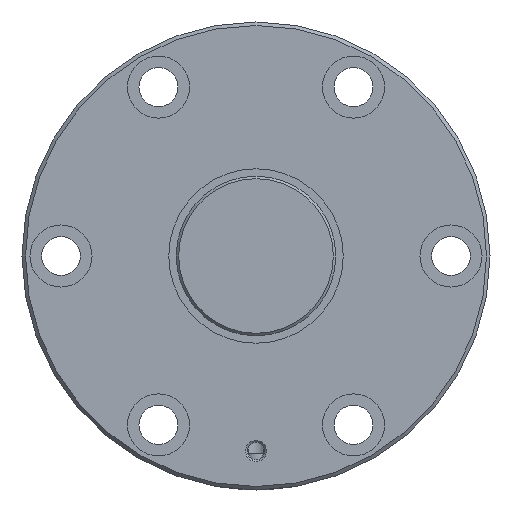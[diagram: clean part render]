
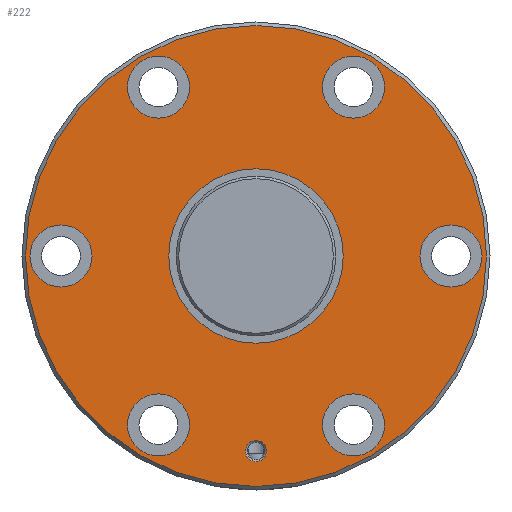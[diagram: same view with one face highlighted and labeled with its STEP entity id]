
A CAD part, left-side view. The second image highlights one B-rep face of the part: STEP entity #222.
In plain terms, the highlighted planar face has unit normal (-1, 0, 0).
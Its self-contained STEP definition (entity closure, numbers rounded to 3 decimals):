
#222 = ADVANCED_FACE( '', ( #386, #387, #388, #389, #390, #391, #392, #393, #394 ), #395, .T. );
#386 = FACE_BOUND( '', #613, .T. );
#387 = FACE_BOUND( '', #614, .T. );
#388 = FACE_BOUND( '', #615, .T. );
#389 = FACE_BOUND( '', #616, .T. );
#390 = FACE_BOUND( '', #617, .T. );
#391 = FACE_BOUND( '', #618, .T. );
#392 = FACE_BOUND( '', #619, .T. );
#393 = FACE_BOUND( '', #620, .T. );
#394 = FACE_OUTER_BOUND( '', #621, .T. );
#395 = PLANE( '', #622 );
#613 = EDGE_LOOP( '', ( #1086 ) );
#614 = EDGE_LOOP( '', ( #1087 ) );
#615 = EDGE_LOOP( '', ( #1088 ) );
#616 = EDGE_LOOP( '', ( #1089 ) );
#617 = EDGE_LOOP( '', ( #1090 ) );
#618 = EDGE_LOOP( '', ( #1091 ) );
#619 = EDGE_LOOP( '', ( #1092 ) );
#620 = EDGE_LOOP( '', ( #1093 ) );
#621 = EDGE_LOOP( '', ( #1094 ) );
#622 = AXIS2_PLACEMENT_3D( '', #1095, #1096, #1097 );
#1086 = ORIENTED_EDGE( '', *, *, #1366, .T. );
#1087 = ORIENTED_EDGE( '', *, *, #1367, .T. );
#1088 = ORIENTED_EDGE( '', *, *, #1273, .T. );
#1089 = ORIENTED_EDGE( '', *, *, #1365, .T. );
#1090 = ORIENTED_EDGE( '', *, *, #1368, .T. );
#1091 = ORIENTED_EDGE( '', *, *, #1369, .T. );
#1092 = ORIENTED_EDGE( '', *, *, #1370, .T. );
#1093 = ORIENTED_EDGE( '', *, *, #1371, .T. );
#1094 = ORIENTED_EDGE( '', *, *, #1372, .F. );
#1095 = CARTESIAN_POINT( '', ( 0., 65., 0. ) );
#1096 = DIRECTION( '', ( -1., 0., 0. ) );
#1097 = DIRECTION( '', ( 0., 0., 1. ) );
#1273 = EDGE_CURVE( '', #1443, #1443, #1444, .T. );
#1365 = EDGE_CURVE( '', #1601, #1601, #1602, .T. );
#1366 = EDGE_CURVE( '', #1603, #1603, #1604, .T. );
#1367 = EDGE_CURVE( '', #1605, #1605, #1606, .F. );
#1368 = EDGE_CURVE( '', #1607, #1607, #1608, .T. );
#1369 = EDGE_CURVE( '', #1609, #1609, #1610, .T. );
#1370 = EDGE_CURVE( '', #1611, #1611, #1612, .T. );
#1371 = EDGE_CURVE( '', #1613, #1613, #1614, .T. );
#1372 = EDGE_CURVE( '', #1615, #1615, #1616, .T. );
#1443 = VERTEX_POINT( '', #1830 );
#1444 = CIRCLE( '', #1831, 3. );
#1601 = VERTEX_POINT( '', #2524 );
#1602 = CIRCLE( '', #2525, 8.75 );
#1603 = VERTEX_POINT( '', #2526 );
#1604 = CIRCLE( '', #2527, 24.6 );
#1605 = VERTEX_POINT( '', #2528 );
#1606 = CIRCLE( '', #2529, 8.75 );
#1607 = VERTEX_POINT( '', #2530 );
#1608 = CIRCLE( '', #2531, 8.75 );
#1609 = VERTEX_POINT( '', #2532 );
#1610 = CIRCLE( '', #2533, 8.75 );
#1611 = VERTEX_POINT( '', #2534 );
#1612 = CIRCLE( '', #2535, 8.75 );
#1613 = VERTEX_POINT( '', #2536 );
#1614 = CIRCLE( '', #2537, 8.75 );
#1615 = VERTEX_POINT( '', #2538 );
#1616 = CIRCLE( '', #2539, 65. );
#1830 = CARTESIAN_POINT( '', ( 0., 0., -58. ) );
#1831 = AXIS2_PLACEMENT_3D( '', #2701, #2702, #2703 );
#2524 = CARTESIAN_POINT( '', ( 0., 27.5, 38.881 ) );
#2525 = AXIS2_PLACEMENT_3D( '', #2857, #2858, #2859 );
#2526 = CARTESIAN_POINT( '', ( 0., 0., -24.6 ) );
#2527 = AXIS2_PLACEMENT_3D( '', #2860, #2861, #2862 );
#2528 = CARTESIAN_POINT( '', ( 0., 55., 8.75 ) );
#2529 = AXIS2_PLACEMENT_3D( '', #2863, #2864, #2865 );
#2530 = CARTESIAN_POINT( '', ( 0., -27.5, -56.381 ) );
#2531 = AXIS2_PLACEMENT_3D( '', #2866, #2867, #2868 );
#2532 = CARTESIAN_POINT( '', ( 0., -27.5, 38.881 ) );
#2533 = AXIS2_PLACEMENT_3D( '', #2869, #2870, #2871 );
#2534 = CARTESIAN_POINT( '', ( 0., 27.5, -56.381 ) );
#2535 = AXIS2_PLACEMENT_3D( '', #2872, #2873, #2874 );
#2536 = CARTESIAN_POINT( '', ( 0., -55., -8.75 ) );
#2537 = AXIS2_PLACEMENT_3D( '', #2875, #2876, #2877 );
#2538 = CARTESIAN_POINT( '', ( 0., 0., -65. ) );
#2539 = AXIS2_PLACEMENT_3D( '', #2878, #2879, #2880 );
#2701 = CARTESIAN_POINT( '', ( 0., 0., -55. ) );
#2702 = DIRECTION( '', ( 1., 0., 0. ) );
#2703 = DIRECTION( '', ( 0., 0., -1. ) );
#2857 = CARTESIAN_POINT( '', ( 0., 27.5, 47.631 ) );
#2858 = DIRECTION( '', ( 1., 0., 0. ) );
#2859 = DIRECTION( '', ( 0., 0., -1. ) );
#2860 = CARTESIAN_POINT( '', ( 0., 0., 0. ) );
#2861 = DIRECTION( '', ( 1., 0., 0. ) );
#2862 = DIRECTION( '', ( 0., 0., -1. ) );
#2863 = CARTESIAN_POINT( '', ( 0., 55., 0. ) );
#2864 = DIRECTION( '', ( -1., 0., 0. ) );
#2865 = DIRECTION( '', ( 0., 0., 1. ) );
#2866 = CARTESIAN_POINT( '', ( 0., -27.5, -47.631 ) );
#2867 = DIRECTION( '', ( 1., 0., 0. ) );
#2868 = DIRECTION( '', ( 0., 0., -1. ) );
#2869 = CARTESIAN_POINT( '', ( 0., -27.5, 47.631 ) );
#2870 = DIRECTION( '', ( 1., 0., 0. ) );
#2871 = DIRECTION( '', ( 0., 0., -1. ) );
#2872 = CARTESIAN_POINT( '', ( 0., 27.5, -47.631 ) );
#2873 = DIRECTION( '', ( 1., 0., 0. ) );
#2874 = DIRECTION( '', ( 0., 0., -1. ) );
#2875 = CARTESIAN_POINT( '', ( 0., -55., 0. ) );
#2876 = DIRECTION( '', ( 1., 0., 0. ) );
#2877 = DIRECTION( '', ( 0., 0., -1. ) );
#2878 = CARTESIAN_POINT( '', ( 0., 0., 0. ) );
#2879 = DIRECTION( '', ( 1., 0., 0. ) );
#2880 = DIRECTION( '', ( 0., 0., -1. ) );
